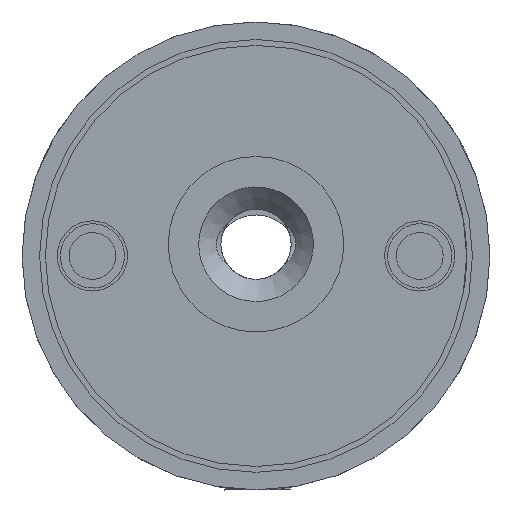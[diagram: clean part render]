
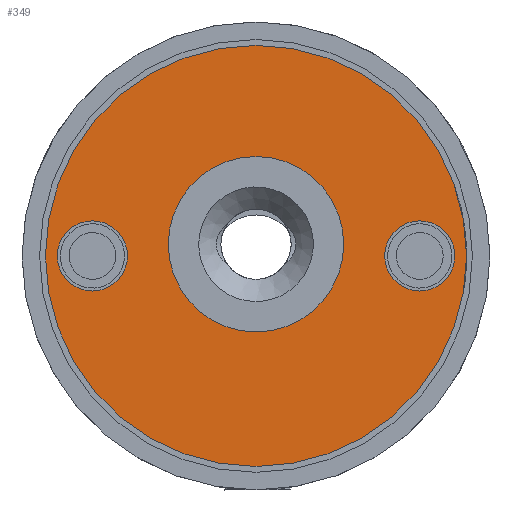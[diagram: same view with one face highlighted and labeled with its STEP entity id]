
A CAD part, left-side view. The second image highlights one B-rep face of the part: STEP entity #349.
In plain terms, the highlighted planar face has unit normal (-1, 0, 0).
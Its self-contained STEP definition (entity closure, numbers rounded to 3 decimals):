
#349 = ADVANCED_FACE( '', ( #745, #746, #747, #748 ), #749, .F. );
#745 = FACE_BOUND( '', #1362, .T. );
#746 = FACE_BOUND( '', #1363, .T. );
#747 = FACE_BOUND( '', #1364, .T. );
#748 = FACE_OUTER_BOUND( '', #1365, .T. );
#749 = PLANE( '', #1366 );
#1362 = EDGE_LOOP( '', ( #1986 ) );
#1363 = EDGE_LOOP( '', ( #1987 ) );
#1364 = EDGE_LOOP( '', ( #1988 ) );
#1365 = EDGE_LOOP( '', ( #1989 ) );
#1366 = AXIS2_PLACEMENT_3D( '', #1990, #1991, #1992 );
#1986 = ORIENTED_EDGE( '', *, *, #3176, .T. );
#1987 = ORIENTED_EDGE( '', *, *, #3177, .T. );
#1988 = ORIENTED_EDGE( '', *, *, #3178, .T. );
#1989 = ORIENTED_EDGE( '', *, *, #3179, .T. );
#1990 = CARTESIAN_POINT( '', ( -12.7, 18., 0. ) );
#1991 = DIRECTION( '', ( 1., 0., 0. ) );
#1992 = DIRECTION( '', ( 0., 0., -1. ) );
#3176 = EDGE_CURVE( '', #3635, #3635, #3636, .T. );
#3177 = EDGE_CURVE( '', #3637, #3637, #3638, .T. );
#3178 = EDGE_CURVE( '', #3639, #3639, #3640, .T. );
#3179 = EDGE_CURVE( '', #3641, #3641, #3642, .T. );
#3635 = VERTEX_POINT( '', #4296 );
#3636 = CIRCLE( '', #4297, 3. );
#3637 = VERTEX_POINT( '', #4298 );
#3638 = CIRCLE( '', #4299, 3. );
#3639 = VERTEX_POINT( '', #4300 );
#3640 = CIRCLE( '', #4301, 7.5 );
#3641 = VERTEX_POINT( '', #4302 );
#3642 = CIRCLE( '', #4303, 18. );
#4296 = CARTESIAN_POINT( '', ( -12.7, -14., 3. ) );
#4297 = AXIS2_PLACEMENT_3D( '', #5873, #5874, #5875 );
#4298 = CARTESIAN_POINT( '', ( -12.7, 13.988, 3. ) );
#4299 = AXIS2_PLACEMENT_3D( '', #5876, #5877, #5878 );
#4300 = CARTESIAN_POINT( '', ( -12.7, 0., 8.5 ) );
#4301 = AXIS2_PLACEMENT_3D( '', #5879, #5880, #5881 );
#4302 = CARTESIAN_POINT( '', ( -12.7, 0., 18. ) );
#4303 = AXIS2_PLACEMENT_3D( '', #5882, #5883, #5884 );
#5873 = CARTESIAN_POINT( '', ( -12.7, -14., 0. ) );
#5874 = DIRECTION( '', ( 1., 0., 0. ) );
#5875 = DIRECTION( '', ( 0., 0., 1. ) );
#5876 = CARTESIAN_POINT( '', ( -12.7, 13.988, 0. ) );
#5877 = DIRECTION( '', ( 1., 0., 0. ) );
#5878 = DIRECTION( '', ( 0., 0., 1. ) );
#5879 = CARTESIAN_POINT( '', ( -12.7, 0., 1. ) );
#5880 = DIRECTION( '', ( 1., 0., 0. ) );
#5881 = DIRECTION( '', ( 0., 0., 1. ) );
#5882 = CARTESIAN_POINT( '', ( -12.7, 0., 0. ) );
#5883 = DIRECTION( '', ( -1., 0., 0. ) );
#5884 = DIRECTION( '', ( 0., 0., 1. ) );
